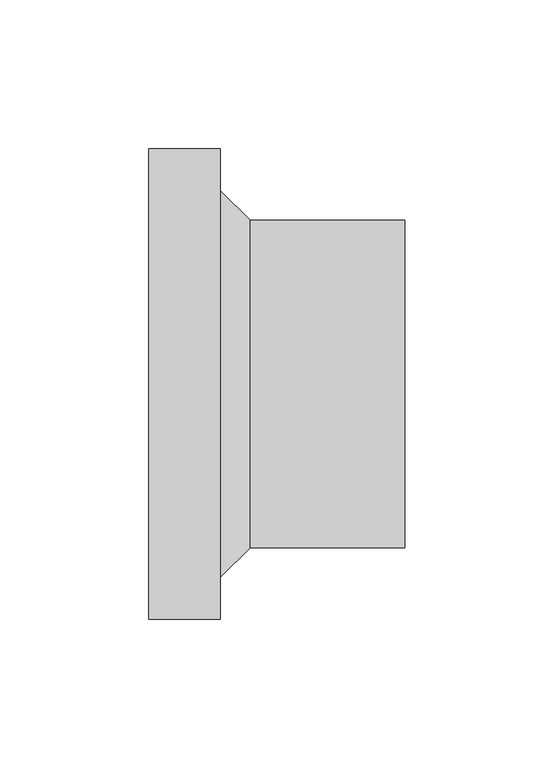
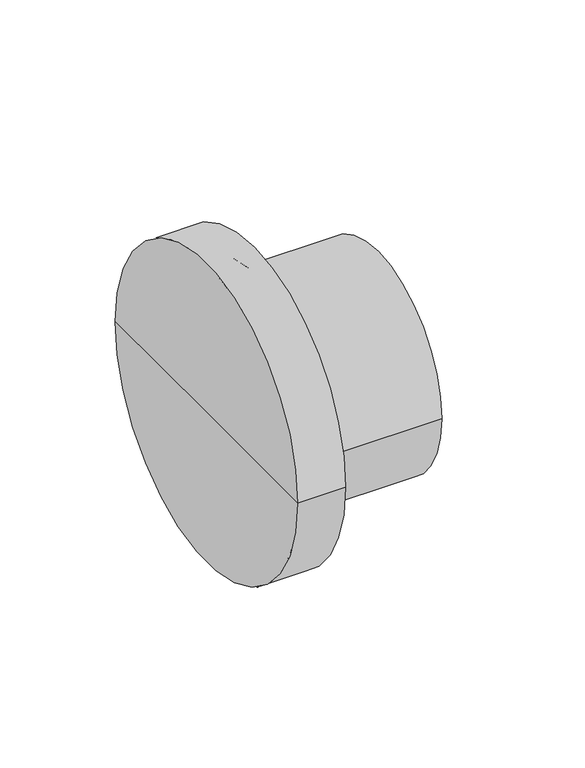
"""IFC4 building model written with IfcOpenShell, lengths in millimetres: pipe fitting geometry, KAN-therm PP tuleja 110 : KAN-therm PP tuleja 110."""

from ifc_helpers import new_model, si_unit, frame, origin, place, context, project, spatial, polyline, circle_curve, source, transform, mapped, element, save
from ifc_brep_helpers import plane_surface, cylinder_surface, revolved_surface, advanced_brep


def pipe_fitting_a43475a8(model_context):
    return source(origin(), model_context, "Body", "AdvancedBrep", [
        advanced_brep(
        [(17.0, 0.0, 0.0), (17.0, -55.0, 0.0), (17.0, 55.0, 0.0), (-69.0, 79.0, 0.0), (-69.0, -79.0, 0.0), (-69.0, 0.0, 0.0), (-35.0, -55.0, 0.0), (-35.0, 55.0, 0.0), (-45.0, 79.0, 0.0), (-45.0, -79.0, 0.0), (-45.0, 65.0, 0.0), (-45.0, -65.0, 0.0)],
        [
            (0, 1),
            (1, 2, circle_curve(frame((17.0, 0.0, 0.0), z_axis=(1.0, 0.0, 0.0), x_axis=(0.0, -1.0, 0.0)), 55.0)),
            (2, 0),
            (2, 1, circle_curve(frame((17.0, 0.0, 0.0), z_axis=(1.0, 0.0, 0.0), x_axis=(0.0, -1.0, 0.0)), 55.0)),
            (3, 4, circle_curve(frame((-69.0, 0.0, 0.0), z_axis=(-1.0, 0.0, 0.0), x_axis=(0.0, -1.0, 0.0)), 79.0)),
            (4, 5),
            (5, 3),
            (4, 3, circle_curve(frame((-69.0, 0.0, 0.0), z_axis=(-1.0, 0.0, 0.0), x_axis=(0.0, -1.0, 0.0)), 79.0)),
            (1, 6),
            (6, 7, circle_curve(frame((-35.0, 0.0, 0.0), z_axis=(1.0, 0.0, 0.0), x_axis=(0.0, -1.0, 0.0)), 55.0)),
            (7, 2),
            (7, 6, circle_curve(frame((-35.0, 0.0, 0.0), z_axis=(1.0, 0.0, 0.0), x_axis=(0.0, -1.0, 0.0)), 55.0)),
            (8, 9, circle_curve(frame((-45.0, 0.0, 0.0), z_axis=(-1.0, 0.0, 0.0), x_axis=(0.0, -1.0, 0.0)), 79.0)),
            (9, 4),
            (3, 8),
            (9, 8, circle_curve(frame((-45.0, 0.0, 0.0), z_axis=(-1.0, 0.0, 0.0), x_axis=(0.0, -1.0, 0.0)), 79.0)),
            (10, 11, circle_curve(frame((-45.0, 0.0, 0.0), z_axis=(-1.0, 0.0, 0.0), x_axis=(0.0, -1.0, 0.0)), 65.0)),
            (11, 9),
            (8, 10),
            (11, 10, circle_curve(frame((-45.0, 0.0, 0.0), z_axis=(-1.0, 0.0, 0.0), x_axis=(0.0, -1.0, 0.0)), 65.0)),
            (6, 11),
            (10, 7),
        ],
        [
            plane_surface(frame((17.0, 0.0, 0.0), z_axis=(1.0, 0.0, 0.0), x_axis=(0.0, -1.0, 0.0))),
            plane_surface(frame((-69.0, 0.0, 0.0), z_axis=(-1.0, 0.0, 0.0), x_axis=(0.0, -1.0, 0.0))),
            cylinder_surface(frame((1989.5, 0.0, 0.0), z_axis=(1.0, 0.0, 0.0), x_axis=(0.0, -1.0, 0.0)), 55.0),
            cylinder_surface(frame((1989.5, 0.0, 0.0), z_axis=(1.0, 0.0, 0.0), x_axis=(0.0, -1.0, 0.0)), 79.0),
            plane_surface(frame((-45.0, 0.0, 0.0), z_axis=(1.0, 0.0, 0.0), x_axis=(0.0, -1.0, 0.0))),
            revolved_surface(polyline([(-45.0, -65.0, 0.0), (-35.0, -55.0, 0.0)]), (1989.5, 0.0, 0.0), (1.0, 0.0, 0.0)),
        ],
        [
            (0, [[1, 2, 3]]),
            (0, [[-3, 4, -1]]),
            (1, [[5, 6, 7]]),
            (1, [[8, -7, -6]]),
            (2, [[-2, 9, 10, 11]]),
            (2, [[-4, -11, 12, -9]]),
            (3, [[13, 14, -5, 15]]),
            (3, [[16, -15, -8, -14]]),
            (4, [[17, 18, -13, 19]]),
            (4, [[20, -19, -16, -18]]),
            (5, [[-10, 21, -17, 22]]),
            (5, [[-12, -22, -20, -21]]),
        ],
    ),
    ])


if __name__ == "__main__":
    model = new_model("IFC4")
    model_context = context("Model", 3, world=origin())
    ifc_project = project(units=[si_unit("LENGTHUNIT", "METRE", prefix="MILLI")], contexts=[model_context])
    site = spatial("IfcSite", under=ifc_project)
    building = spatial("IfcBuilding", under=site)
    placement = place(None, origin())
    pipe_fitting_shape = pipe_fitting_a43475a8(model_context)
    element("IfcPipeFitting", 1, ObjectType="KAN-therm PP tuleja 110 : KAN-therm PP tuleja 110", at=placement, inside=building, context=model_context, shape_type="MappedRepresentation", body=[
        mapped(pipe_fitting_shape, transform((0.0, 0.0, 0.0), x_axis=(1.0, 0.0, 0.0), y_axis=(0.0, 1.0, 0.0), z_axis=(0.0, 0.0, 1.0))),
    ])
    save(model, "model.ifc")
